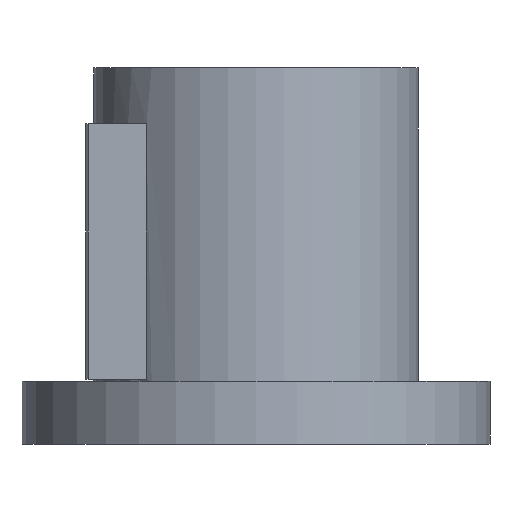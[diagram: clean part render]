
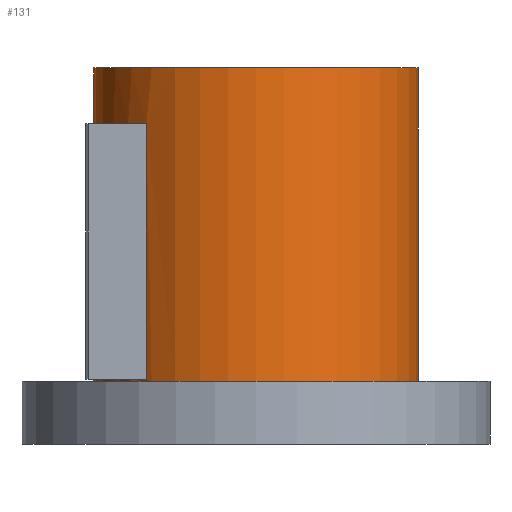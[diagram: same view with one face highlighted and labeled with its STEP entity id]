
A CAD part, front view. The second image highlights one B-rep face of the part: STEP entity #131.
In plain terms, the highlighted cylindrical face has radius 72.5 mm (diameter 145 mm), a full revolution.
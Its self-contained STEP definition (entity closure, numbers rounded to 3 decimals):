
#131=ADVANCED_FACE('',(#218,#219,#220),#161,.T.);
#161=CYLINDRICAL_SURFACE('',#550,72.5);
#174=LINE('',#752,#196);
#175=LINE('',#756,#197);
#196=VECTOR('',#612,1.);
#197=VECTOR('',#615,1.);
#218=FACE_BOUND('',#263,.T.);
#219=FACE_BOUND('',#264,.T.);
#220=FACE_BOUND('',#265,.T.);
#263=EDGE_LOOP('',(#325));
#264=EDGE_LOOP('',(#326));
#265=EDGE_LOOP('',(#327,#328,#329,#330));
#325=ORIENTED_EDGE('',*,*,#467,.F.);
#326=ORIENTED_EDGE('',*,*,#468,.T.);
#327=ORIENTED_EDGE('',*,*,#469,.F.);
#328=ORIENTED_EDGE('',*,*,#470,.F.);
#329=ORIENTED_EDGE('',*,*,#471,.T.);
#330=ORIENTED_EDGE('',*,*,#472,.F.);
#425=VERTEX_POINT('',#746);
#426=VERTEX_POINT('',#748);
#427=VERTEX_POINT('',#750);
#428=VERTEX_POINT('',#751);
#429=VERTEX_POINT('',#753);
#430=VERTEX_POINT('',#755);
#467=EDGE_CURVE('',#425,#425,#517,.T.);
#468=EDGE_CURVE('',#426,#426,#518,.T.);
#469=EDGE_CURVE('',#427,#428,#519,.T.);
#470=EDGE_CURVE('',#429,#427,#174,.T.);
#471=EDGE_CURVE('',#429,#430,#520,.T.);
#472=EDGE_CURVE('',#428,#430,#175,.T.);
#517=CIRCLE('',#546,72.5);
#518=CIRCLE('',#547,72.5);
#519=CIRCLE('',#548,72.5);
#520=CIRCLE('',#549,72.5);
#546=AXIS2_PLACEMENT_3D('',#745,#606,#607);
#547=AXIS2_PLACEMENT_3D('',#747,#608,#609);
#548=AXIS2_PLACEMENT_3D('',#749,#610,#611);
#549=AXIS2_PLACEMENT_3D('',#754,#613,#614);
#550=AXIS2_PLACEMENT_3D('',#757,#616,#617);
#606=DIRECTION('',(0.,0.,1.));
#607=DIRECTION('',(1.,0.,0.));
#608=DIRECTION('',(0.,0.,1.));
#609=DIRECTION('',(1.,0.,0.));
#610=DIRECTION('',(0.,0.,-1.));
#611=DIRECTION('',(-1.,0.,0.));
#612=DIRECTION('',(0.,0.,1.));
#613=DIRECTION('',(0.,0.,-1.));
#614=DIRECTION('',(-1.,0.,0.));
#615=DIRECTION('',(0.,0.,-1.));
#616=DIRECTION('',(0.,0.,-1.));
#617=DIRECTION('',(-1.,0.,0.));
#745=CARTESIAN_POINT('',(0.,0.,168.));
#746=CARTESIAN_POINT('',(72.5,0.,168.));
#747=CARTESIAN_POINT('',(0.,0.,28.));
#748=CARTESIAN_POINT('',(72.5,0.,28.));
#749=CARTESIAN_POINT('',(0.,0.,143.));
#750=CARTESIAN_POINT('',(-49.,-53.435,143.));
#751=CARTESIAN_POINT('',(-49.,53.435,143.));
#752=CARTESIAN_POINT('',(-49.,-53.435,168.));
#753=CARTESIAN_POINT('',(-49.,-53.435,29.));
#754=CARTESIAN_POINT('',(0.,0.,29.));
#755=CARTESIAN_POINT('',(-49.,53.435,29.));
#756=CARTESIAN_POINT('',(-49.,53.435,168.));
#757=CARTESIAN_POINT('',(0.,0.,168.));
